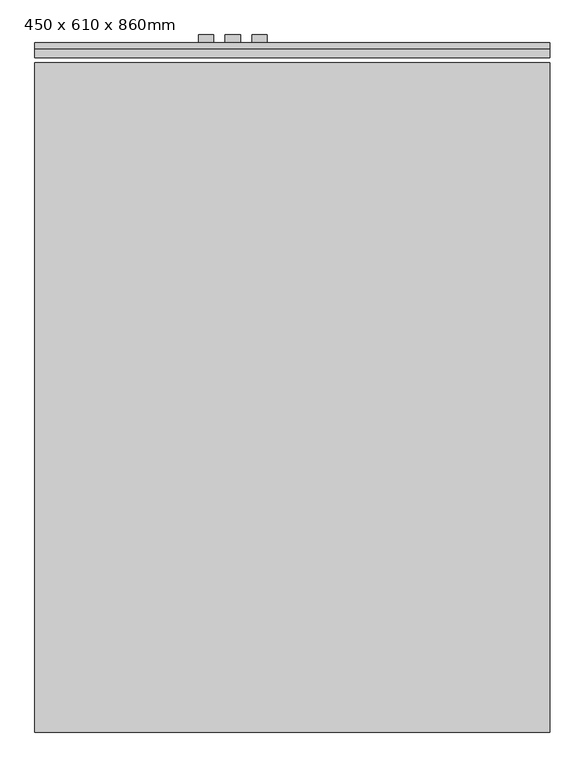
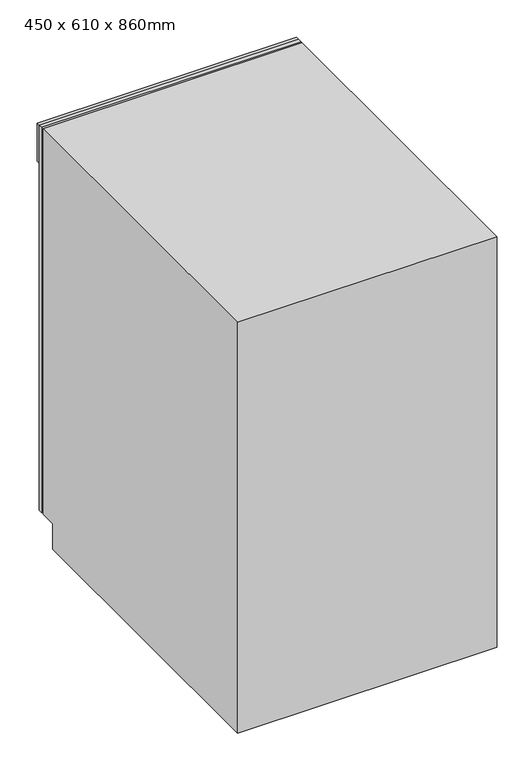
"""IFC4 building model written with IfcOpenShell, lengths in millimetres: proxy geometry, _Produtos_Arq_Bib_M_Trash Compactor : 450 x 610 x 860mm."""

from ifc_helpers import new_model, si_unit, frame, origin, place, context, project, spatial, polyline, outline, extrude, source, transform, mapped, element, save


def proxy_450_x_610_x_860mm_1a0b68a6(model_context):
    return source(origin(), model_context, "Body", "SweptSolid", [
        extrude(outline(polyline([(1057.5174685, 38.3504352), (1057.5174685, 22.4754352), (77.5174685, 22.4754352), (77.5174685, 38.3504352), (1057.5174685, 38.3504352)])), frame((0.0, 0.0, 101.6), z_axis=(0.0, 0.0, 1.0), x_axis=(1.0, 0.0, 0.0)), (0.0, 0.0, 1.0), 1538.4),
        extrude(outline(polyline([(1057.5174685, 38.3504352), (77.5174685, 38.3504352), (77.5174685, 51.0504352), (1057.5174685, 51.0504352), (1057.5174685, 38.3504352)])), frame((0.0, 0.0, 1487.6), z_axis=(0.0, 0.0, 1.0), x_axis=(1.0, 0.0, 0.0)), (0.0, 0.0, 1.0), 152.4),
        extrude(outline(polyline([(-1261.6495648, 0.0), (-1261.6495648, 1640.0), (12.9504352, 1640.0), (12.9504352, 101.6), (-50.5495648, 101.6), (-50.5495648, 0.0), (-1261.6495648, 0.0)])), frame((77.5174685, 0.0, 0.0), z_axis=(1.0, 0.0, 0.0), x_axis=(0.0, 1.0, 0.0)), (0.0, 0.0, 1.0), 980.0),
        extrude(outline(polyline([(417.683818, 66.0504352), (417.683818, 51.0504352), (389.108818, 51.0504352), (389.108818, 66.0504352), (417.683818, 66.0504352)])), frame((0.0, 0.0, 1581.056589), z_axis=(0.0, 0.0, 1.0), x_axis=(1.0, 0.0, 0.0)), (0.0, 0.0, 1.0), 25.4),
        extrude(outline(polyline([(469.324203, 66.0504352), (469.324203, 51.0504352), (439.739816, 51.0504352), (439.739816, 66.0504352), (469.324203, 66.0504352)])), frame((0.0, 0.0, 1581.056589), z_axis=(0.0, 0.0, 1.0), x_axis=(1.0, 0.0, 0.0)), (0.0, 0.0, 1.0), 25.4),
        extrude(outline(polyline([(519.7566481, 66.0504352), (519.7566481, 51.0504352), (491.3635786, 51.0504352), (491.3635786, 66.0504352), (519.7566481, 66.0504352)])), frame((0.0, 0.0, 1581.056589), z_axis=(0.0, 0.0, 1.0), x_axis=(1.0, 0.0, 0.0)), (0.0, 0.0, 1.0), 25.4),
    ])


if __name__ == "__main__":
    model = new_model("IFC4")
    model_context = context("Model", 3, world=origin())
    ifc_project = project(units=[si_unit("LENGTHUNIT", "METRE", prefix="MILLI")], contexts=[model_context])
    site = spatial("IfcSite", under=ifc_project)
    building = spatial("IfcBuilding", under=site)
    placement = place(None, origin())
    proxy_450_x_610_x_860mm_shape = proxy_450_x_610_x_860mm_1a0b68a6(model_context)
    element("IfcBuildingElementProxy", 1, Name="_Produtos_Arq_Bib_M_Trash Compactor : 450 x 610 x 860mm", ObjectType="_Produtos_Arq_Bib_M_Trash Compactor : 450 x 610 x 860mm", at=placement, inside=building, context=model_context, shape_type="MappedRepresentation", body=[
        mapped(proxy_450_x_610_x_860mm_shape, transform((0.0, 0.0, 0.0), x_axis=(1.0, 0.0, 0.0), y_axis=(0.0, 1.0, 0.0), z_axis=(0.0, 0.0, 1.0))),
    ])
    save(model, "model.ifc")
